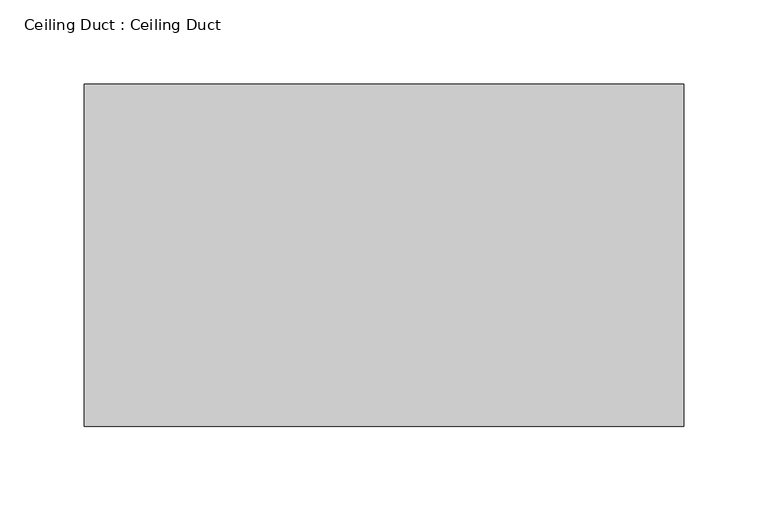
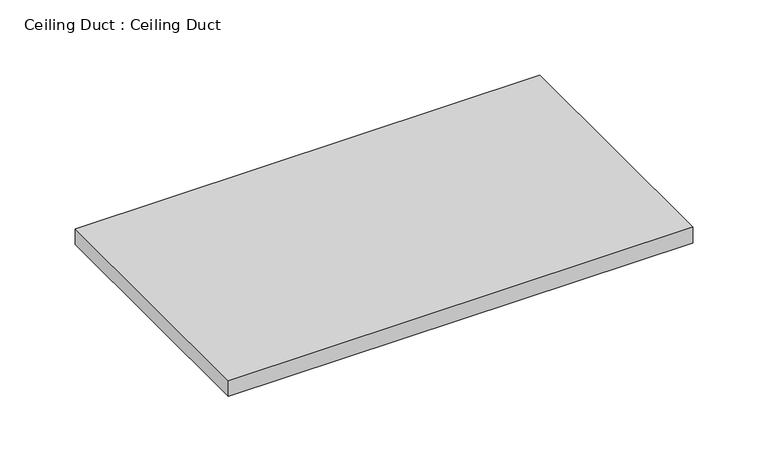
"""IFC4 building model written with IfcOpenShell, lengths in millimetres: proxy geometry, Ceiling Duct : Ceiling Duct."""

from ifc_helpers import new_model, si_unit, frame, origin, place, context, project, spatial, polyline, outline, extrude, source, transform, mapped, element, save


def ceiling_duct_ceiling_duct_6f59f6e1(model_context):
    return source(origin(), model_context, "Body", "SweptSolid", [
        extrude(outline(polyline([(355.6, -203.2), (0.0, -203.2), (0.0, 0.0), (355.6, 0.0), (355.6, -203.2)])), frame((0.0, 0.0, -12.7), z_axis=(0.0, 0.0, 1.0), x_axis=(1.0, 0.0, 0.0)), (0.0, 0.0, 1.0), 12.7),
    ])


if __name__ == "__main__":
    model = new_model("IFC4")
    model_context = context("Model", 3, world=origin())
    ifc_project = project(units=[si_unit("LENGTHUNIT", "METRE", prefix="MILLI")], contexts=[model_context])
    site = spatial("IfcSite", under=ifc_project)
    building = spatial("IfcBuilding", under=site)
    placement = place(None, origin())
    ceiling_duct_ceiling_duct_shape = ceiling_duct_ceiling_duct_6f59f6e1(model_context)
    element("IfcBuildingElementProxy", 1, Name="Ceiling Duct : Ceiling Duct", ObjectType="Ceiling Duct : Ceiling Duct", at=placement, inside=building, context=model_context, shape_type="MappedRepresentation", body=[
        mapped(ceiling_duct_ceiling_duct_shape, transform((0.0, 0.0, 0.0), x_axis=(1.0, 0.0, 0.0), y_axis=(0.0, 1.0, 0.0), z_axis=(0.0, 0.0, 1.0))),
    ])
    save(model, "model.ifc")
